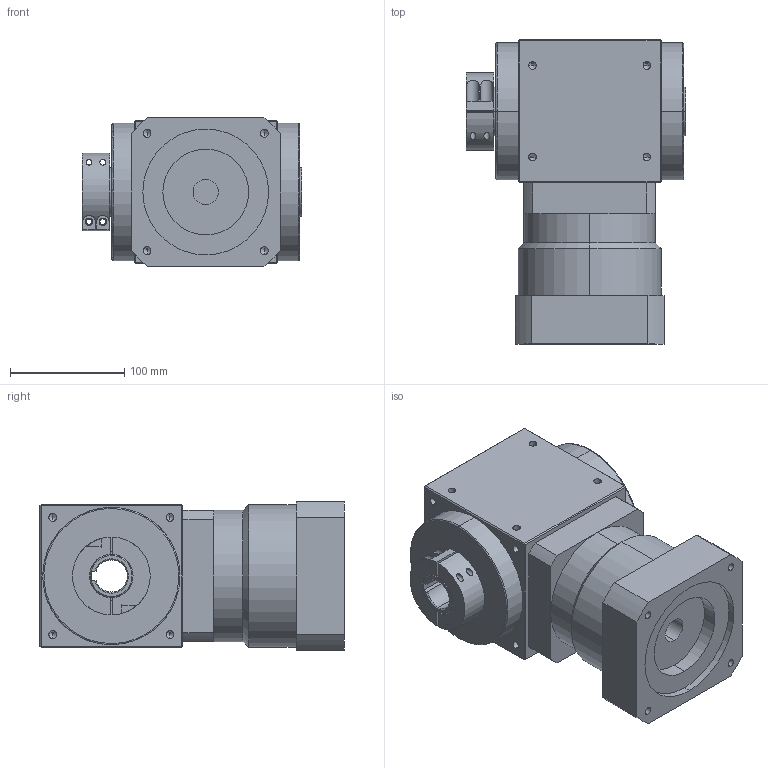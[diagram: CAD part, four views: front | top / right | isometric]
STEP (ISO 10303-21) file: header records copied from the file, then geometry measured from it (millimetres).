
FILE_DESCRIPTION (( 'STEP AP214' ), '1' );
FILE_NAME ('PAW125A-L1-C-K(3-10) 22-110-145-M8.STEP', '2021-04-24T08:12:18', ( 'Microsoft' ), ( 'Microsoft China' ), 'SwSTEP 2.0', 'SolidWorks 2016', '' );
FILE_SCHEMA (( 'AUTOMOTIVE_DESIGN' ));
Length unit declared in the file: millimetre
Products named in the file (3): 125標杶_1; PAW125A-L2-2C-K-22-110-145-M8 - SK_1; PAW125A-L1-C-K(3-10) 22-110-145-M8
Assembly tree (2 placements, depth 2):
  PAW125A-L1-C-K(3-10) 22-110-145-M8
    PAW125A-L2-2C-K-22-110-145-M8 - SK_1
    125標杶_1
Bounding box: 192 x 266 x 130 mm (x, y, z)
Volume: 4073083.5 mm3; surface area: 260486.1 mm2
Topology: 4 solids, 4 shells, 237 faces, 577 edges, 330 vertices
Faces by surface type: cylinder 105, plane 73, cone 55, bspline 4
Entity records: 9819 total; most frequent: CARTESIAN_POINT 1683, DIRECTION 1186, ORIENTED_EDGE 1058, EDGE_CURVE 529, AXIS2_PLACEMENT_3D 457, VERTEX_POINT 330, EDGE_LOOP 293, VECTOR 272
